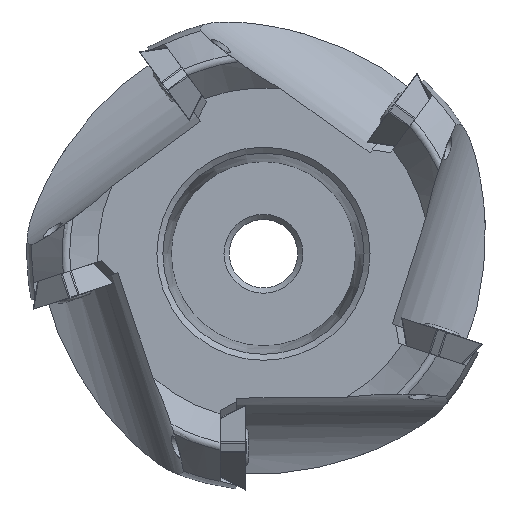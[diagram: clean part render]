
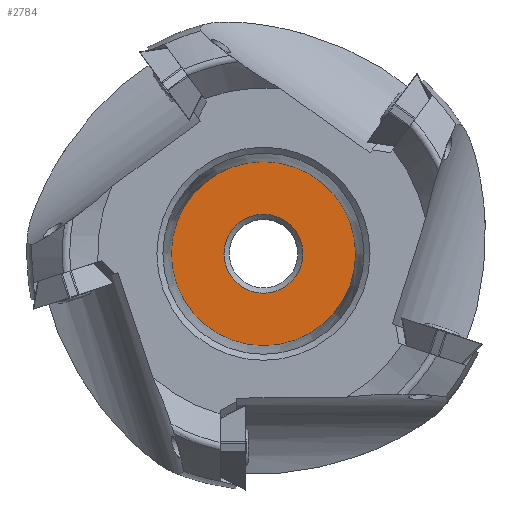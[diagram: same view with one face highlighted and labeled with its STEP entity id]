
A CAD part, left-side view. The second image highlights one B-rep face of the part: STEP entity #2784.
In plain terms, the highlighted planar face has unit normal (-1, 0, 0).
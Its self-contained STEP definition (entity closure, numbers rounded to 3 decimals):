
#74=FACE_BOUND('',#547,.T.);
#212=CIRCLE('',#3094,7.5);
#213=CIRCLE('',#3096,17.5);
#214=CIRCLE('',#3097,17.5);
#387=FACE_OUTER_BOUND('',#546,.T.);
#546=EDGE_LOOP('',(#2070,#2071));
#547=EDGE_LOOP('',(#2072));
#1212=VERTEX_POINT('',#4779);
#1213=VERTEX_POINT('',#4783);
#1214=VERTEX_POINT('',#4784);
#1542=EDGE_CURVE('',#1212,#1212,#212,.T.);
#1543=EDGE_CURVE('',#1213,#1214,#213,.T.);
#1544=EDGE_CURVE('',#1214,#1213,#214,.T.);
#2070=ORIENTED_EDGE('',*,*,#1543,.T.);
#2071=ORIENTED_EDGE('',*,*,#1544,.T.);
#2072=ORIENTED_EDGE('',*,*,#1542,.F.);
#2699=PLANE('',#3095);
#2784=ADVANCED_FACE('',(#387,#74),#2699,.T.);
#3094=AXIS2_PLACEMENT_3D('',#4781,#3644,#3645);
#3095=AXIS2_PLACEMENT_3D('',#4782,#3646,#3647);
#3096=AXIS2_PLACEMENT_3D('',#4785,#3648,#3649);
#3097=AXIS2_PLACEMENT_3D('',#4786,#3650,#3651);
#3644=DIRECTION('center_axis',(-1.,0.,0.));
#3645=DIRECTION('ref_axis',(0.,1.,0.));
#3646=DIRECTION('center_axis',(-1.,0.,0.));
#3647=DIRECTION('ref_axis',(0.,0.,1.));
#3648=DIRECTION('center_axis',(-1.,0.,0.));
#3649=DIRECTION('ref_axis',(0.,0.,1.));
#3650=DIRECTION('center_axis',(-1.,0.,0.));
#3651=DIRECTION('ref_axis',(0.,0.,1.));
#4779=CARTESIAN_POINT('',(18.,-7.5,0.));
#4781=CARTESIAN_POINT('Origin',(18.,0.,0.));
#4782=CARTESIAN_POINT('Origin',(18.,-6.5,0.));
#4783=CARTESIAN_POINT('',(18.,-17.5,0.));
#4784=CARTESIAN_POINT('',(18.,17.5,0.));
#4785=CARTESIAN_POINT('Origin',(18.,0.,0.));
#4786=CARTESIAN_POINT('Origin',(18.,0.,0.));
